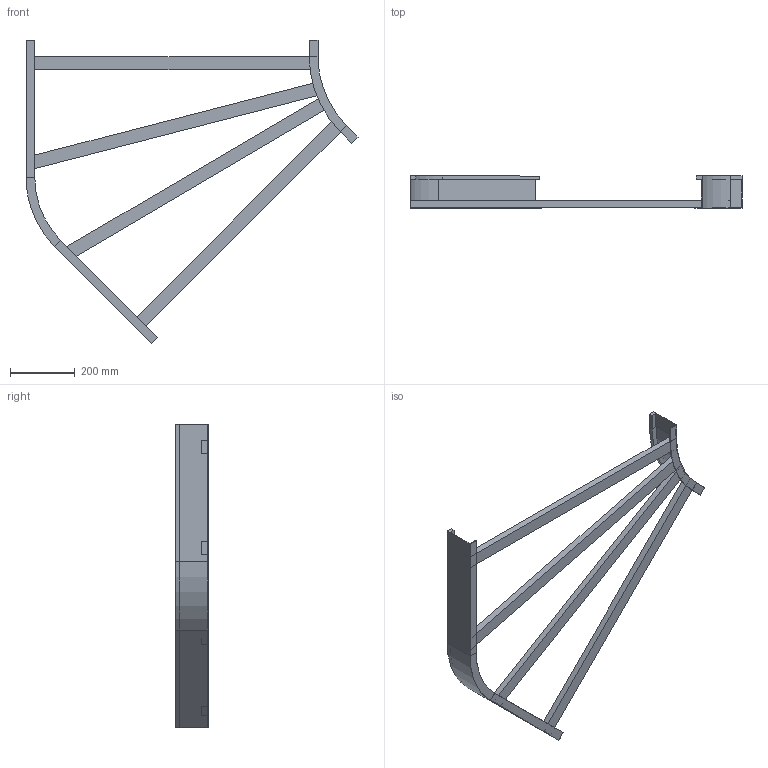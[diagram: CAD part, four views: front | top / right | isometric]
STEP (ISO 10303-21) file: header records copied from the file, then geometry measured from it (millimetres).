
FILE_DESCRIPTION (( 'STEP AP214' ), '1' );
FILE_NAME ('B2_11B3D900.step', '2025-02-21T15:13:17', ( '' ), ( '' ), 'SwSTEP 2.0', 'SolidWorks 2023', '' );
FILE_SCHEMA (( 'AUTOMOTIVE_DESIGN' ));
Length unit declared in the file: millimetre
Products named in the file (5): B2_LONGH.ESTERNO 45°_H100_R300+900; TRAVERSINO_900; TRAVERSINO_1000_SCANTONATO; B2_LONGH.INTERNO 45°_H100_R300; B2_11B3D900
Assembly tree (6 placements, depth 2):
  B2_11B3D900
    B2_LONGH.INTERNO 45°_H100_R300
    B2_LONGH.ESTERNO 45°_H100_R300+900
    TRAVERSINO_900  x2
    TRAVERSINO_1000_SCANTONATO  x2
Bounding box: 1023.22 x 100 x 933.88 mm (x, y, z)
Volume: 3600782 mm3; surface area: 857862 mm2
Topology: 6 solids, 6 shells, 76 faces, 160 edges, 96 vertices
Faces by surface type: plane 68, cylinder 8
Entity records: 1830 total; most frequent: DIRECTION 298, CARTESIAN_POINT 289, ORIENTED_EDGE 272, EDGE_CURVE 136, VECTOR 120, LINE 120, AXIS2_PLACEMENT_3D 89, VERTEX_POINT 80
